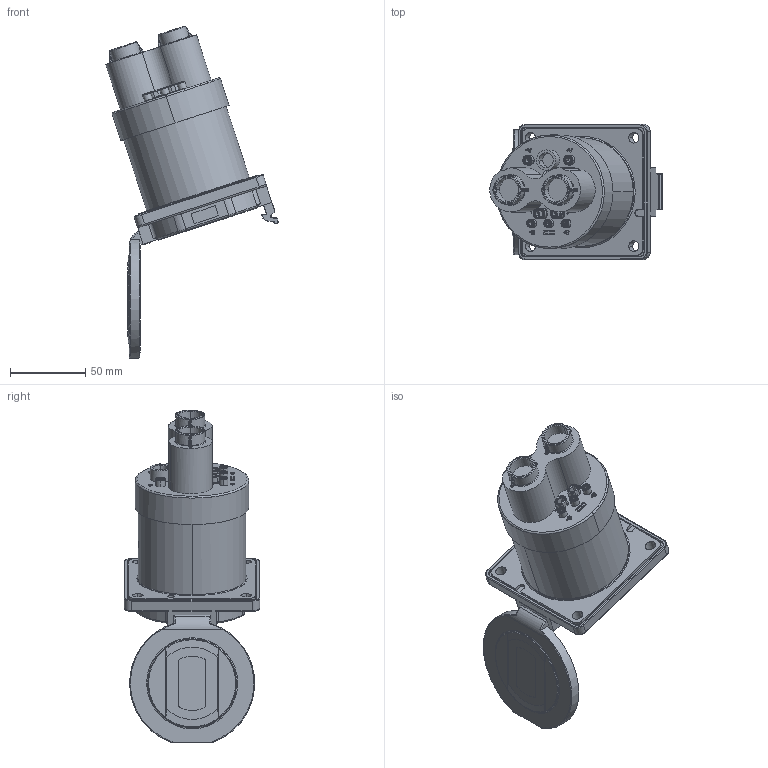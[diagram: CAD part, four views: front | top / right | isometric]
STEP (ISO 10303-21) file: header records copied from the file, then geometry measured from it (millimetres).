
FILE_DESCRIPTION((''),'2;1');
FILE_NAME('0002','2021-01-09T13:48:07',('zhangshp'),(''),'CREO PARAMETRIC BY PTC INC, 2019224','CREO PARAMETRIC BY PTC INC, 2019224','');
FILE_SCHEMA(('CONFIG_CONTROL_DESIGN'));
Length unit declared in the file: millimetre
Products named in the file (1): 0002
Bounding box: 114.49 x 90 x 220.41 mm (x, y, z)
Volume: 358837.9 mm3; surface area: 105972.2 mm2
Topology: 1 solids, 3 shells, 1807 faces, 5031 edges, 3309 vertices
Faces by surface type: plane 1033, cylinder 392, torus 250, cone 88, bspline 36, sphere 8
Entity records: 60587 total; most frequent: CARTESIAN_POINT 13236, ORIENTED_EDGE 10046, DIRECTION 9936, EDGE_CURVE 5023, AXIS2_PLACEMENT_3D 3402, VERTEX_POINT 3309, VECTOR 3132, LINE 3132
